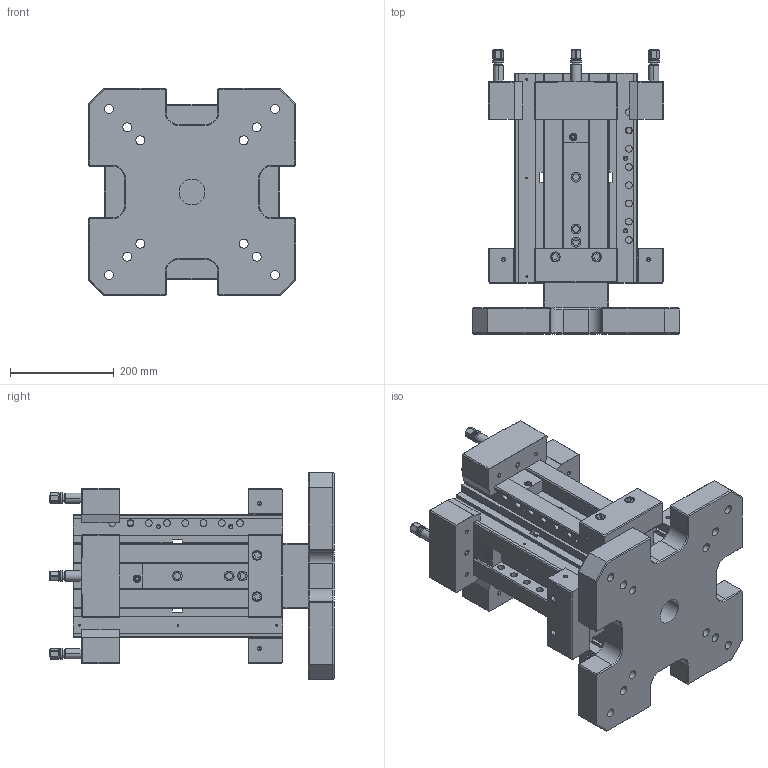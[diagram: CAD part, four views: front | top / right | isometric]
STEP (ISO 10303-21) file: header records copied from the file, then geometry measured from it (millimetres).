
FILE_DESCRIPTION((''),'2;1');
FILE_NAME('FG_WH_TOMB_SQURENP005_ASM','2026-06-11T13:57:56',('Admin'),(''),'CREO PARAMETRIC BY PTC INC, 2025010','CREO PARAMETRIC BY PTC INC, 2025010','');
FILE_SCHEMA(('CONFIG_CONTROL_DESIGN'));
Length unit declared in the file: metre
Products named in the file (3): FG_WH_TOMB_SQURENP005; MOVABLE_JAW_160_4_1; FG_WH_TOMB_SQURENP005_ASM
Assembly tree (5 placements, depth 2):
  FG_WH_TOMB_SQURENP005_ASM
    FG_WH_TOMB_SQURENP005
    MOVABLE_JAW_160_4_1  x4
Bounding box: 400 x 548.19 x 400 mm (x, y, z)
Volume: 26480482.8 mm3; surface area: 1689390.4 mm2
Topology: 5 solids, 146 shells, 2402 faces, 6252 edges, 3994 vertices
Faces by surface type: plane 1064, cylinder 932, cone 386, torus 16, sphere 4
Entity records: 52586 total; most frequent: CARTESIAN_POINT 10543, DIRECTION 9064, ORIENTED_EDGE 8200, EDGE_CURVE 4260, AXIS2_PLACEMENT_3D 3287, VERTEX_POINT 2806, VECTOR 2490, LINE 2490
